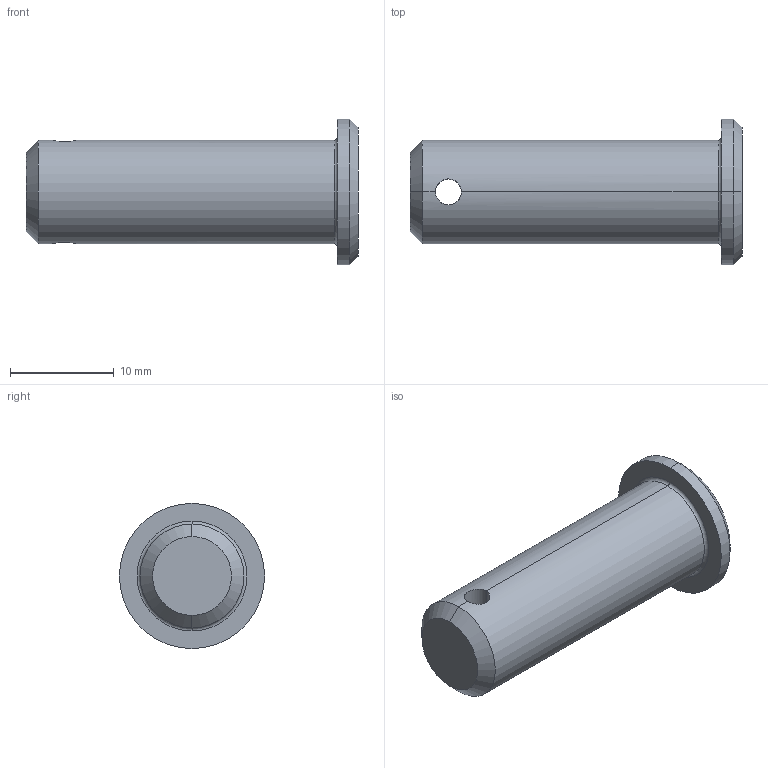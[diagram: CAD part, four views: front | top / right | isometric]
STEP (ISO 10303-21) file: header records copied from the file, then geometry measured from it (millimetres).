
FILE_DESCRIPTION (( 'STEP AP203' ), '1' );
FILE_NAME ('Wiberger-sms2360_10x30.step', '2012-10-09T08:56:53', ( 'Magnus' ), ( 'Wiberger' ), 'SwSTEP 2.0', 'SolidWorks 2011', '' );
FILE_SCHEMA (( 'CONFIG_CONTROL_DESIGN' ));
Length unit declared in the file: millimetre
Products named in the file (1): Wiberger-sms2360_10x30
Bounding box: 32 x 14 x 14 mm (x, y, z)
Volume: 2581.6 mm3; surface area: 1356.3 mm2
Topology: 1 solids, 1 shells, 15 faces, 32 edges, 18 vertices
Faces by surface type: cylinder 6, cone 4, plane 3, torus 2
Entity records: 555 total; most frequent: CARTESIAN_POINT 146, DIRECTION 76, ORIENTED_EDGE 64, EDGE_CURVE 32, AXIS2_PLACEMENT_3D 32, VERTEX_POINT 18, EDGE_LOOP 16, CIRCLE 16
